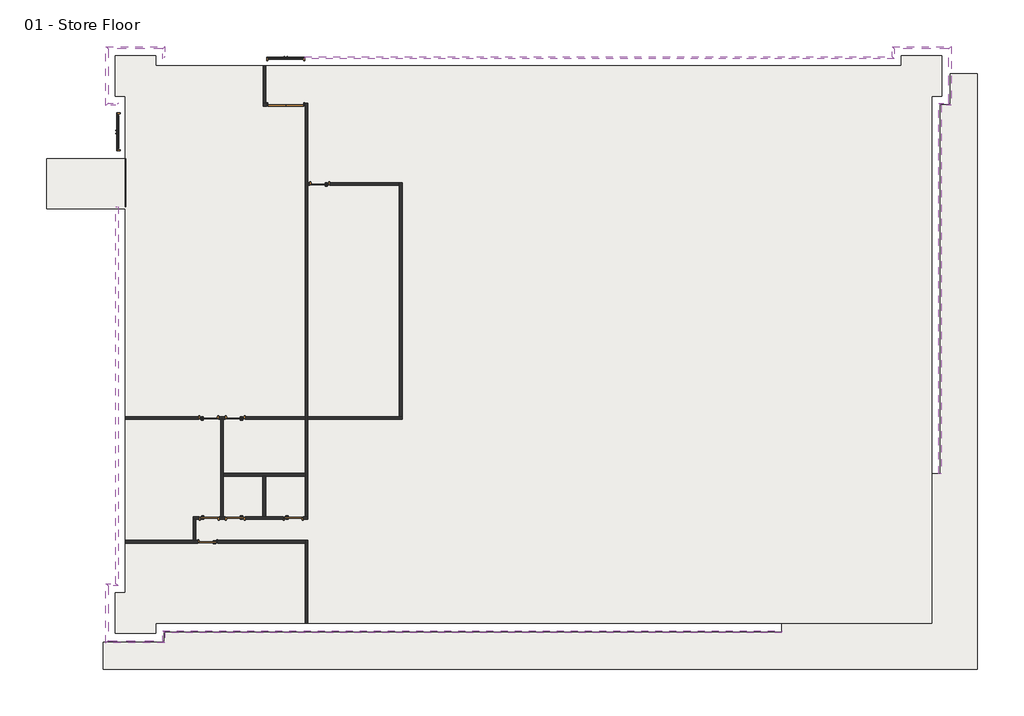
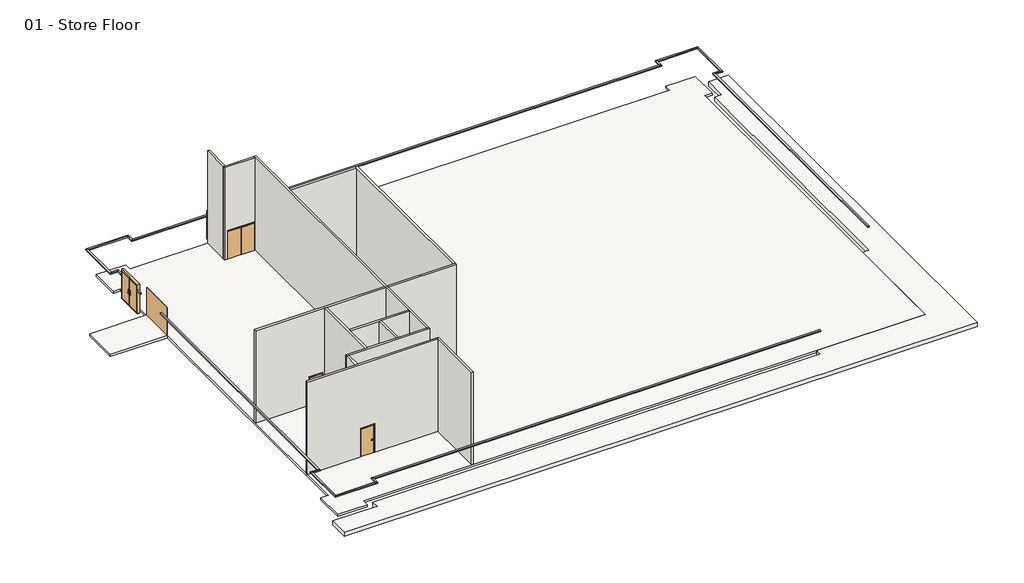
# One storey: 16 proxies, 13 walls, 11 doors, 2 slabs.
"""IFC4 building model written with IfcOpenShell, lengths in millimetres."""

from ifc_helpers import new_model, si_unit, frame, origin, origin_with_axes, place, context, project, spatial, polyline, outline, extrude, faceted_brep, transform, mapped, element, save
from components import m_door_exterior_double_1800_x_2000mm_23919ed1, m_door_exterior_double_1800_x_2000mm_bb9cb4d2, m_door_overhead_sectional_2400_x_2000mm_2e2bb5a0, m_door_passage_double_flush_dbl_acting_1800_x_2000mm_08d7c2af, m_door_passage_single_flush_900_x_2000mm_14e2eb9a, m_door_passage_single_flush_900_x_2000mm_70bd3cdf

model = new_model("IFC4")

# Units and contexts
model_context = context("Model", 3, world=origin())
ifc_project = project(units=[si_unit("LENGTHUNIT", "METRE", prefix="MILLI")], contexts=[model_context])

# Site, building, storey
site = spatial("IfcSite", under=ifc_project)
building = spatial("IfcBuilding", under=site)
storey = spatial("IfcBuildingStorey", under=building, Name="01 - Store Floor", Elevation=0.0)

# Proxies
placement = place(None, origin())
element("IfcBuildingElementProxy", 1, Name="Reveals", at=placement, inside=storey, context=model_context, shape_type="SweptSolid", body=[
    extrude(outline(polyline([(10855.5272279, -14331.9313057), (10855.5272279, -14434.4313057), (-20003.9727721, -14434.4313057), (-20106.4727721, -14331.9313057), (10855.5272279, -14331.9313057)])), frame((0.0, 0.0, 1675.0), z_axis=(0.0, 0.0, 1.0), x_axis=(1.0, 0.0, 0.0)), (0.0, 0.0, 1.0), 75.0),
])
element("IfcBuildingElementProxy", 2, Name="Reveals", at=placement, inside=storey, context=model_context, shape_type="SweptSolid", body=[
    extrude(outline(polyline([(-20106.4727721, -14331.9313057), (-20003.9727721, -14434.4313057), (-20003.9727721, -14934.2313057), (-20106.4727721, -14831.7313057), (-20106.4727721, -14331.9313057)])), frame((0.0, 0.0, 1675.0), z_axis=(0.0, 0.0, 1.0), x_axis=(1.0, 0.0, 0.0)), (0.0, 0.0, 1.0), 75.0),
])
element("IfcBuildingElementProxy", 3, Name="Reveals", at=placement, inside=storey, context=model_context, shape_type="SweptSolid", body=[
    extrude(outline(polyline([(-20106.4727721, -14831.7313057), (-20003.9727721, -14934.2313057), (-22946.9727721, -14934.2313057), (-22844.4727721, -14831.7313057), (-20106.4727721, -14831.7313057)])), frame((0.0, 0.0, 1675.0), z_axis=(0.0, 0.0, 1.0), x_axis=(1.0, 0.0, 0.0)), (0.0, 0.0, 1.0), 75.0),
])
element("IfcBuildingElementProxy", 4, Name="Reveals", at=placement, inside=storey, context=model_context, shape_type="SweptSolid", body=[
    extrude(outline(polyline([(-22844.4727721, -14831.7313057), (-22946.9727721, -14934.2313057), (-22946.9727721, -11991.2313057), (-22844.4727721, -12093.7313057), (-22844.4727721, -14831.7313057)])), frame((0.0, 0.0, 1675.0), z_axis=(0.0, 0.0, 1.0), x_axis=(1.0, 0.0, 0.0)), (0.0, 0.0, 1.0), 75.0),
])
element("IfcBuildingElementProxy", 5, Name="Reveals", at=placement, inside=storey, context=model_context, shape_type="SweptSolid", body=[
    extrude(outline(polyline([(-22844.4727721, -12093.7313057), (-22946.9727721, -11991.2313057), (-22446.9727721, -11991.2313057), (-22344.4727721, -12093.7313057), (-22844.4727721, -12093.7313057)])), frame((0.0, 0.0, 1675.0), z_axis=(0.0, 0.0, 1.0), x_axis=(1.0, 0.0, 0.0)), (0.0, 0.0, 1.0), 75.0),
])
element("IfcBuildingElementProxy", 6, Name="Reveals", at=placement, inside=storey, context=model_context, shape_type="SweptSolid", body=[
    extrude(outline(polyline([(-22344.4727721, 11555.0686943), (-22446.9727721, 11555.0686943), (-22446.9727721, 11927.5686943), (-22344.4727721, 12030.0686943), (-22344.4727721, 11555.0686943)])), frame((0.0, 0.0, 1675.0), z_axis=(0.0, 0.0, 1.0), x_axis=(1.0, 0.0, 0.0)), (0.0, 0.0, 1.0), 75.0),
    extrude(outline(polyline([(-22344.4727721, 9255.0686943), (-22446.9727721, 9255.0686943), (-22446.9727721, 9655.0686943), (-22344.4727721, 9655.0686943), (-22344.4727721, 9255.0686943)])), frame((0.0, 0.0, 1675.0), z_axis=(0.0, 0.0, 1.0), x_axis=(1.0, 0.0, 0.0)), (0.0, 0.0, 1.0), 75.0),
    extrude(outline(polyline([(-22344.4727721, -12093.7313057), (-22446.9727721, -11991.2313057), (-22446.9727721, 6855.0686943), (-22344.4727721, 6855.0686943), (-22344.4727721, -12093.7313057)])), frame((0.0, 0.0, 1675.0), z_axis=(0.0, 0.0, 1.0), x_axis=(1.0, 0.0, 0.0)), (0.0, 0.0, 1.0), 75.0),
])
element("IfcBuildingElementProxy", 7, Name="Reveals", at=placement, inside=storey, context=model_context, shape_type="SweptSolid", body=[
    extrude(outline(polyline([(-22344.4727721, 12030.0686943), (-22446.9727721, 11927.5686943), (-22946.9727721, 11927.5686943), (-22844.4727721, 12030.0686943), (-22344.4727721, 12030.0686943)])), frame((0.0, 0.0, 1675.0), z_axis=(0.0, 0.0, 1.0), x_axis=(1.0, 0.0, 0.0)), (0.0, 0.0, 1.0), 75.0),
])
element("IfcBuildingElementProxy", 8, Name="Reveals", at=placement, inside=storey, context=model_context, shape_type="SweptSolid", body=[
    extrude(outline(polyline([(-22844.4727721, 12030.0686943), (-22946.9727721, 11927.5686943), (-22946.9727721, 14870.5686943), (-22844.4727721, 14768.0686943), (-22844.4727721, 12030.0686943)])), frame((0.0, 0.0, 1675.0), z_axis=(0.0, 0.0, 1.0), x_axis=(1.0, 0.0, 0.0)), (0.0, 0.0, 1.0), 75.0),
])
element("IfcBuildingElementProxy", 9, Name="Reveals", at=placement, inside=storey, context=model_context, shape_type="SweptSolid", body=[
    extrude(outline(polyline([(-22844.4727721, 14768.0686943), (-22946.9727721, 14870.5686943), (-20003.9727721, 14870.5686943), (-20106.4727721, 14768.0686943), (-22844.4727721, 14768.0686943)])), frame((0.0, 0.0, 1675.0), z_axis=(0.0, 0.0, 1.0), x_axis=(1.0, 0.0, 0.0)), (0.0, 0.0, 1.0), 75.0),
])
element("IfcBuildingElementProxy", 10, Name="Reveals", at=placement, inside=storey, context=model_context, shape_type="SweptSolid", body=[
    extrude(outline(polyline([(-20106.4727721, 14768.0686943), (-20003.9727721, 14870.5686943), (-20003.9727721, 14370.5686943), (-20106.4727721, 14268.0686943), (-20106.4727721, 14768.0686943)])), frame((0.0, 0.0, 1675.0), z_axis=(0.0, 0.0, 1.0), x_axis=(1.0, 0.0, 0.0)), (0.0, 0.0, 1.0), 75.0),
])
element("IfcBuildingElementProxy", 11, Name="Reveals", at=placement, inside=storey, context=model_context, shape_type="SweptSolid", body=[
    extrude(outline(polyline([(-13012.4227721, 14268.0686943), (-13012.4227721, 14370.5686943), (16365.0272279, 14370.5686943), (16467.5272279, 14268.0686943), (-13012.4227721, 14268.0686943)])), frame((0.0, 0.0, 1675.0), z_axis=(0.0, 0.0, 1.0), x_axis=(1.0, 0.0, 0.0)), (0.0, 0.0, 1.0), 75.0),
    extrude(outline(polyline([(-20106.4727721, 14268.0686943), (-20003.9727721, 14370.5686943), (-14912.4227721, 14370.5686943), (-14912.4227721, 14268.0686943), (-20106.4727721, 14268.0686943)])), frame((0.0, 0.0, 1675.0), z_axis=(0.0, 0.0, 1.0), x_axis=(1.0, 0.0, 0.0)), (0.0, 0.0, 1.0), 75.0),
])
element("IfcBuildingElementProxy", 12, Name="Reveals", at=placement, inside=storey, context=model_context, shape_type="SweptSolid", body=[
    extrude(outline(polyline([(16467.5272279, 14268.0686943), (16365.0272279, 14370.5686943), (16365.0272279, 14870.5686943), (16467.5272279, 14768.0686943), (16467.5272279, 14268.0686943)])), frame((0.0, 0.0, 1675.0), z_axis=(0.0, 0.0, 1.0), x_axis=(1.0, 0.0, 0.0)), (0.0, 0.0, 1.0), 75.0),
])
element("IfcBuildingElementProxy", 13, Name="Reveals", at=placement, inside=storey, context=model_context, shape_type="SweptSolid", body=[
    extrude(outline(polyline([(16467.5272279, 14768.0686943), (16365.0272279, 14870.5686943), (19308.0272279, 14870.5686943), (19205.5272279, 14768.0686943), (16467.5272279, 14768.0686943)])), frame((0.0, 0.0, 1675.0), z_axis=(0.0, 0.0, 1.0), x_axis=(1.0, 0.0, 0.0)), (0.0, 0.0, 1.0), 75.0),
])
element("IfcBuildingElementProxy", 14, Name="Reveals", at=placement, inside=storey, context=model_context, shape_type="SweptSolid", body=[
    extrude(outline(polyline([(19205.5272279, 14768.0686943), (19308.0272279, 14870.5686943), (19308.0272279, 11927.5686943), (19205.5272279, 12030.0686943), (19205.5272279, 14768.0686943)])), frame((0.0, 0.0, 1675.0), z_axis=(0.0, 0.0, 1.0), x_axis=(1.0, 0.0, 0.0)), (0.0, 0.0, 1.0), 75.0),
])
element("IfcBuildingElementProxy", 15, Name="Reveals", at=placement, inside=storey, context=model_context, shape_type="SweptSolid", body=[
    extrude(outline(polyline([(19205.5272279, 12030.0686943), (19308.0272279, 11927.5686943), (18808.0272279, 11927.5686943), (18705.5272279, 12030.0686943), (19205.5272279, 12030.0686943)])), frame((0.0, 0.0, 1675.0), z_axis=(0.0, 0.0, 1.0), x_axis=(1.0, 0.0, 0.0)), (0.0, 0.0, 1.0), 75.0),
])
element("IfcBuildingElementProxy", 16, Name="Reveals", at=placement, inside=storey, context=model_context, shape_type="SweptSolid", body=[
    extrude(outline(polyline([(18705.5272279, 12030.0686943), (18808.0272279, 11927.5686943), (18808.0272279, -6481.9313057), (18705.5272279, -6481.9313057), (18705.5272279, 12030.0686943)])), frame((0.0, 0.0, 1675.0), z_axis=(0.0, 0.0, 1.0), x_axis=(1.0, 0.0, 0.0)), (0.0, 0.0, 1.0), 75.0),
])

# Doors
m_door_exterior_double_1800_x_2000mm_shape = m_door_exterior_double_1800_x_2000mm_23919ed1(model_context)
element("IfcDoor", 17, ObjectType="M_Door-Exterior-Double : 1800 x 2000mm", at=placement, inside=storey, context=model_context, shape_type="MappedRepresentation", body=[
    mapped(m_door_exterior_double_1800_x_2000mm_shape, transform((-13962.4227721, 14122.2186943, 0.0), x_axis=(-1.0, 0.0, 0.0), y_axis=(0.0, -1.0, 0.0), z_axis=(0.0, 0.0, 1.0))),
])
m_door_exterior_double_1800_x_2000mm_2_shape = m_door_exterior_double_1800_x_2000mm_bb9cb4d2(model_context)
element("IfcDoor", 18, ObjectType="M_Door-Exterior-Double : 1800 x 2000mm", at=placement, inside=storey, context=model_context, shape_type="MappedRepresentation", body=[
    mapped(m_door_exterior_double_1800_x_2000mm_2_shape, transform((-22198.6227721, 10605.0686943, 0.0), x_axis=(0.0, 1.0, 0.0), y_axis=(-1.0, 0.0, 0.0), z_axis=(0.0, 0.0, 1.0))),
])
m_door_overhead_sectional_2400_x_2000mm_shape = m_door_overhead_sectional_2400_x_2000mm_2e2bb5a0(model_context)
element("IfcDoor", 19, ObjectType="M_Door-Overhead-Sectional : 2400 x 2000mm", at=placement, inside=storey, context=model_context, shape_type="MappedRepresentation", body=[
    mapped(m_door_overhead_sectional_2400_x_2000mm_shape, transform((-22204.9727721, 8055.0686943, 0.0), x_axis=(0.0, 1.0, 0.0), y_axis=(-1.0, 0.0, 0.0), z_axis=(0.0, 0.0, 1.0))),
])
m_door_passage_double_flush_dbl_acting_1800_x_2000mm_shape = m_door_passage_double_flush_dbl_acting_1800_x_2000mm_08d7c2af(model_context)
element("IfcDoor", 20, ObjectType="M_Door-Passage-Double-Flush-Dbl_Acting : 1800 x 2000mm", at=placement, inside=storey, context=model_context, shape_type="MappedRepresentation", body=[
    mapped(m_door_passage_double_flush_dbl_acting_1800_x_2000mm_shape, transform((-13959.9477721, 11961.4186943, 0.0), x_axis=(-1.0, 0.0, 0.0), y_axis=(0.0, -1.0, 0.0), z_axis=(0.0, 0.0, 1.0))),
])
m_door_passage_single_flush_900_x_2000mm_shape = m_door_passage_single_flush_900_x_2000mm_14e2eb9a(model_context)
element("IfcDoor", 21, ObjectType="M_Door-Passage-Single-Flush : 900 x 2000mm", at=placement, inside=storey, context=model_context, shape_type="MappedRepresentation", body=[
    mapped(m_door_passage_single_flush_900_x_2000mm_shape, transform((-17819.4727721, -3700.5813057, 0.0), x_axis=(1.0, 0.0, 0.0), y_axis=(0.0, 1.0, 0.0), z_axis=(0.0, 0.0, 1.0))),
])
element("IfcDoor", 22, ObjectType="M_Door-Passage-Single-Flush : 900 x 2000mm", at=placement, inside=storey, context=model_context, shape_type="MappedRepresentation", body=[
    mapped(m_door_passage_single_flush_900_x_2000mm_shape, transform((-16480.9727721, -8713.2813057, 0.0), x_axis=(-1.0, 0.0, 0.0), y_axis=(0.0, -1.0, 0.0), z_axis=(0.0, 0.0, 1.0))),
])
m_door_passage_single_flush_900_x_2000mm_2_shape = m_door_passage_single_flush_900_x_2000mm_70bd3cdf(model_context)
element("IfcDoor", 23, ObjectType="M_Door-Passage-Single-Flush : 900 x 2000mm", at=placement, inside=storey, context=model_context, shape_type="MappedRepresentation", body=[
    mapped(m_door_passage_single_flush_900_x_2000mm_2_shape, transform((-16480.9727721, -3700.5813057, 0.0), x_axis=(-1.0, 0.0, 0.0), y_axis=(0.0, -1.0, 0.0), z_axis=(0.0, 0.0, 1.0))),
])
element("IfcDoor", 24, ObjectType="M_Door-Passage-Single-Flush : 900 x 2000mm", at=placement, inside=storey, context=model_context, shape_type="MappedRepresentation", body=[
    mapped(m_door_passage_single_flush_900_x_2000mm_2_shape, transform((-13588.7227721, -8713.2813057, 0.0), x_axis=(1.0, 0.0, 0.0), y_axis=(0.0, 1.0, 0.0), z_axis=(0.0, 0.0, 1.0))),
])
element("IfcDoor", 25, ObjectType="M_Door-Passage-Single-Flush : 900 x 2000mm", at=placement, inside=storey, context=model_context, shape_type="MappedRepresentation", body=[
    mapped(m_door_passage_single_flush_900_x_2000mm_2_shape, transform((-17795.5977721, -8713.2813057, 0.0), x_axis=(1.0, 0.0, 0.0), y_axis=(0.0, 1.0, 0.0), z_axis=(0.0, 0.0, 1.0))),
])
element("IfcDoor", 26, ObjectType="M_Door-Passage-Single-Flush : 900 x 2000mm", at=placement, inside=storey, context=model_context, shape_type="MappedRepresentation", body=[
    mapped(m_door_passage_single_flush_900_x_2000mm_2_shape, transform((-17850.2227721, -9889.0813057, 0.0), x_axis=(-1.0, 0.0, 0.0), y_axis=(0.0, -1.0, 0.0), z_axis=(0.0, 0.0, 1.0))),
])
element("IfcDoor", 27, ObjectType="M_Door-Passage-Single-Flush : 900 x 2000mm", at=placement, inside=storey, context=model_context, shape_type="MappedRepresentation", body=[
    mapped(m_door_passage_single_flush_900_x_2000mm_2_shape, transform((-12250.2227721, 7999.4186943, 0.0), x_axis=(-1.0, 0.0, 0.0), y_axis=(0.0, -1.0, 0.0), z_axis=(0.0, 0.0, 1.0))),
])

# Slabs
element("IfcSlab", 28, ObjectType="Generic 150mm", at=placement, inside=storey, context=model_context, shape_type="SweptSolid", body=[
    extrude(outline(polyline([(16821.5272279, 13914.0686943), (16821.5272279, 14414.0686943), (18851.5272279, 14414.0686943), (18851.5272279, 12384.0686943), (18351.5272279, 12384.0686943), (18351.5272279, -6481.9313057), (18351.5272279, -13977.9313057), (10855.5272279, -13977.9313057), (-20460.4727721, -13977.9313057), (-20460.4727721, -14477.7313057), (-22490.4727721, -14477.7313057), (-22490.4727721, -12447.7313057), (-21990.4727721, -12447.7313057), (-21990.4727721, 6772.0686943), (-25919.4727721, 6772.0686943), (-25919.4727721, 9272.0686943), (-21990.4727721, 9272.0686943), (-21990.4727721, 12384.0686943), (-22490.4727721, 12384.0686943), (-22490.4727721, 14414.0686943), (-20460.4727721, 14414.0686943), (-20460.4727721, 13914.0686943), (16821.5272279, 13914.0686943)])), frame((0.0, 0.0, -150.0), z_axis=(0.0, 0.0, 1.0), x_axis=(1.0, 0.0, 0.0)), (0.0, 0.0, 1.0), 150.0),
])
element("IfcSlab", 29, ObjectType="Generic 300mm", at=placement, inside=storey, context=model_context, shape_type="SweptSolid", body=[
    extrude(outline(polyline([(20630.5272279, -16256.9313057), (-23090.4727721, -16256.9313057), (-23090.4727721, -14906.7313057), (-20031.4727721, -14906.7313057), (-20031.4727721, -14406.9313057), (10855.5272279, -14406.9313057), (10855.5272279, -13977.9313057), (18351.5272279, -13977.9313057), (18351.5272279, -6481.9313057), (18780.5272279, -6481.9313057), (18780.5272279, 11955.0686943), (19280.5272279, 11955.0686943), (19280.5272279, 13514.0686943), (20630.5272279, 13514.0686943), (20630.5272279, -16256.9313057)])), frame((0.0, 0.0, -300.0), z_axis=(0.0, 0.0, 1.0), x_axis=(1.0, 0.0, 0.0)), (0.0, 0.0, 1.0), 300.0),
])

# Walls
element("IfcWall", 30, ObjectType="Interior - 138mm Partition (1-hr)", at=placement, inside=storey, context=model_context, shape_type="Brep", body=[
    faceted_brep([(-12850.2227721, -13977.9313057, 0.0), (-12850.2227721, -9826.1813057, 0.0), (-12850.2227721, -9826.1813057, 6750.0), (-12850.2227721, -13977.9313057, 6750.0), (-12988.7227721, -13977.9313057, 0.0), (-12988.7227721, -13977.9313057, 6750.0), (-12988.7227721, -9964.6813057, 6750.0), (-12988.7227721, -9826.1813057, 6750.0), (-12988.7227721, -9826.1813057, 0.0), (-12988.7227721, -9964.6813057, 0.0)], [[[0, 1, 2, 3]], [[4, 5, 6, 7, 8, 9]], [[1, 0, 4, 9, 8]], [[0, 3, 5, 4]], [[2, 1, 8, 7]], [[3, 2, 7, 6, 5]]]),
])
element("IfcWall", 31, ObjectType="Interior - 138mm Partition (1-hr)", at=placement, inside=storey, context=model_context, shape_type="Brep", body=[
    faceted_brep([(-12988.7227721, 12024.3186943, 6750.0), (-12988.7227721, 12024.3186943, 0.0), (-13009.9477721, 12024.3186943, 0.0), (-13009.9477721, 12024.3186943, 2100.0), (-14909.9477721, 12024.3186943, 2100.0), (-14909.9477721, 12024.3186943, 0.0), (-14950.2227721, 12024.3186943, 0.0), (-15088.7227721, 12024.3186943, 0.0), (-15088.7227721, 12024.3186943, 6750.0), (-14950.2227721, 12024.3186943, 6750.0), (-12988.7227721, 11885.8186943, 0.0), (-12988.7227721, 11885.8186943, 6750.0), (-15088.7227721, 11885.8186943, 6750.0), (-15088.7227721, 11885.8186943, 0.0), (-14909.9477721, 11885.8186943, 0.0), (-14909.9477721, 11885.8186943, 2100.0), (-13009.9477721, 11885.8186943, 2100.0), (-13009.9477721, 11885.8186943, 0.0)], [[[0, 1, 2, 3, 4, 5, 6, 7, 8, 9]], [[10, 11, 12, 13, 14, 15, 16, 17]], [[1, 10, 17, 2]], [[13, 7, 6, 5, 14]], [[1, 0, 11, 10]], [[8, 7, 13, 12]], [[0, 9, 8, 12, 11]], [[4, 15, 14, 5]], [[15, 4, 3, 16]], [[16, 3, 2, 17]]]),
])
element("IfcWall", 32, ObjectType="Interior - 138mm Partition (1-hr)", at=placement, inside=storey, context=model_context, shape_type="SweptSolid", body=[
    extrude(outline(polyline([(-14950.2227721, 13914.0686943), (-14950.2227721, 12024.3186943), (-15088.7227721, 12024.3186943), (-15088.7227721, 13914.0686943), (-14950.2227721, 13914.0686943)])), origin_with_axes(), (0.0, 0.0, 1.0), 6750.0),
])
element("IfcWall", 33, ObjectType="Interior - 138mm Partition (1-hr)", at=placement, inside=storey, context=model_context, shape_type="Brep", body=[
    faceted_brep([(-18588.7227721, -8637.6813057, 0.0), (-18588.7227721, -8637.6813057, 6750.0), (-17219.4727721, -8637.6813057, 6750.0), (-17080.9727721, -8637.6813057, 6750.0), (-15104.0977721, -8637.6813057, 6750.0), (-14965.5977721, -8637.6813057, 6750.0), (-12988.7227721, -8637.6813057, 6750.0), (-12850.2227721, -8637.6813057, 6750.0), (-12850.2227721, -8637.6813057, 0.0), (-12988.7227721, -8637.6813057, 0.0), (-13088.7227721, -8637.6813057, 0.0), (-13088.7227721, -8637.6813057, 2100.0), (-14088.7227721, -8637.6813057, 2100.0), (-14088.7227721, -8637.6813057, 0.0), (-14965.5977721, -8637.6813057, 0.0), (-15104.0977721, -8637.6813057, 0.0), (-15980.9727721, -8637.6813057, 0.0), (-15980.9727721, -8637.6813057, 2100.0), (-16980.9727721, -8637.6813057, 2100.0), (-16980.9727721, -8637.6813057, 0.0), (-17080.9727721, -8637.6813057, 0.0), (-17219.4727721, -8637.6813057, 0.0), (-17295.5977721, -8637.6813057, 0.0), (-17295.5977721, -8637.6813057, 2100.0), (-18295.5977721, -8637.6813057, 2100.0), (-18295.5977721, -8637.6813057, 0.0), (-18588.7227721, -8776.1813057, 6750.0), (-18588.7227721, -8776.1813057, 0.0), (-18450.2227721, -8776.1813057, 0.0), (-18295.5977721, -8776.1813057, 0.0), (-18295.5977721, -8776.1813057, 2100.0), (-17295.5977721, -8776.1813057, 2100.0), (-17295.5977721, -8776.1813057, 0.0), (-16980.9727721, -8776.1813057, 0.0), (-16980.9727721, -8776.1813057, 2100.0), (-15980.9727721, -8776.1813057, 2100.0), (-15980.9727721, -8776.1813057, 0.0), (-14088.7227721, -8776.1813057, 0.0), (-14088.7227721, -8776.1813057, 2100.0), (-13088.7227721, -8776.1813057, 2100.0), (-13088.7227721, -8776.1813057, 0.0), (-12850.2227721, -8776.1813057, 0.0), (-12850.2227721, -8776.1813057, 6750.0), (-18450.2227721, -8776.1813057, 6750.0)], [[[0, 1, 2, 3, 4, 5, 6, 7, 8, 9, 10, 11, 12, 13, 14, 15, 16, 17, 18, 19, 20, 21, 22, 23, 24, 25]], [[26, 27, 28, 29, 30, 31, 32, 33, 34, 35, 36, 37, 38, 39, 40, 41, 42, 43]], [[27, 0, 25, 29, 28]], [[8, 41, 40, 10, 9]], [[19, 33, 32, 22, 21, 20]], [[36, 16, 15, 14, 13, 37]], [[1, 0, 27, 26]], [[8, 7, 42, 41]], [[7, 6, 5, 4, 3, 2, 1, 26, 43, 42]], [[18, 34, 33, 19]], [[34, 18, 17, 35]], [[35, 17, 16, 36]], [[39, 11, 10, 40]], [[11, 39, 38, 12]], [[12, 38, 37, 13]], [[31, 23, 22, 32]], [[23, 31, 30, 24]], [[24, 30, 29, 25]]]),
])
element("IfcWall", 34, ObjectType="Interior - 138mm Partition (1-hr)", at=placement, inside=storey, context=model_context, shape_type="SweptSolid", body=[
    extrude(outline(polyline([(-18588.7227721, -9826.1813057), (-18588.7227721, -8776.1813057), (-18450.2227721, -8776.1813057), (-18450.2227721, -9826.1813057), (-18588.7227721, -9826.1813057)])), origin_with_axes(), (0.0, 0.0, 1.0), 6750.0),
])
element("IfcWall", 35, ObjectType="Interior - 138mm Partition (1-hr)", at=placement, inside=storey, context=model_context, shape_type="Brep", body=[
    faceted_brep([(-21990.4727721, -9964.6813057, 6750.0), (-21990.4727721, -9964.6813057, 0.0), (-18350.2227721, -9964.6813057, 0.0), (-18350.2227721, -9964.6813057, 2100.0), (-17350.2227721, -9964.6813057, 2100.0), (-17350.2227721, -9964.6813057, 0.0), (-12988.7227721, -9964.6813057, 0.0), (-12988.7227721, -9964.6813057, 6750.0), (-21990.4727721, -9826.1813057, 0.0), (-21990.4727721, -9826.1813057, 6750.0), (-18588.7227721, -9826.1813057, 6750.0), (-18450.2227721, -9826.1813057, 6750.0), (-12988.7227721, -9826.1813057, 6750.0), (-12988.7227721, -9826.1813057, 0.0), (-17350.2227721, -9826.1813057, 0.0), (-17350.2227721, -9826.1813057, 2100.0), (-18350.2227721, -9826.1813057, 2100.0), (-18350.2227721, -9826.1813057, 0.0), (-18450.2227721, -9826.1813057, 0.0), (-18588.7227721, -9826.1813057, 0.0)], [[[0, 1, 2, 3, 4, 5, 6, 7]], [[8, 9, 10, 11, 12, 13, 14, 15, 16, 17, 18, 19]], [[1, 8, 19, 18, 17, 2]], [[13, 6, 5, 14]], [[1, 0, 9, 8]], [[7, 6, 13, 12]], [[0, 7, 12, 11, 10, 9]], [[16, 3, 2, 17]], [[3, 16, 15, 4]], [[4, 15, 14, 5]]]),
])
element("IfcWall", 36, ObjectType="Interior - 138mm Partition (1-hr)", at=placement, inside=storey, context=model_context, shape_type="Brep", body=[
    faceted_brep([(-17080.9727721, -8637.6813057, 0.0), (-17080.9727721, -6606.9313057, 0.0), (-17080.9727721, -6468.4313057, 0.0), (-17080.9727721, -3776.1813057, 0.0), (-17080.9727721, -3776.1813057, 6750.0), (-17080.9727721, -6468.4313057, 6750.0), (-17080.9727721, -6606.9313057, 6750.0), (-17080.9727721, -8637.6813057, 6750.0), (-17219.4727721, -8637.6813057, 0.0), (-17219.4727721, -8637.6813057, 6750.0), (-17219.4727721, -3776.1813057, 6750.0), (-17219.4727721, -3776.1813057, 0.0)], [[[0, 1, 2, 3, 4, 5, 6, 7]], [[8, 9, 10, 11]], [[3, 2, 1, 0, 8, 11]], [[0, 7, 9, 8]], [[4, 3, 11, 10]], [[7, 6, 5, 4, 10, 9]]]),
])
element("IfcWall", 37, ObjectType="Interior - 138mm Partition (1-hr)", at=placement, inside=storey, context=model_context, shape_type="Brep", body=[
    faceted_brep([(-21990.4727721, -3637.6813057, 0.0), (-21990.4727721, -3637.6813057, 6750.0), (-12988.7227721, -3637.6813057, 6750.0), (-12988.7227721, -3637.6813057, 0.0), (-15980.9727721, -3637.6813057, 0.0), (-15980.9727721, -3637.6813057, 2100.0), (-16980.9727721, -3637.6813057, 2100.0), (-16980.9727721, -3637.6813057, 0.0), (-17319.4727721, -3637.6813057, 0.0), (-17319.4727721, -3637.6813057, 2100.0), (-18319.4727721, -3637.6813057, 2100.0), (-18319.4727721, -3637.6813057, 0.0), (-21990.4727721, -3776.1813057, 6750.0), (-21990.4727721, -3776.1813057, 0.0), (-18319.4727721, -3776.1813057, 0.0), (-18319.4727721, -3776.1813057, 2100.0), (-17319.4727721, -3776.1813057, 2100.0), (-17319.4727721, -3776.1813057, 0.0), (-17219.4727721, -3776.1813057, 0.0), (-17080.9727721, -3776.1813057, 0.0), (-16980.9727721, -3776.1813057, 0.0), (-16980.9727721, -3776.1813057, 2100.0), (-15980.9727721, -3776.1813057, 2100.0), (-15980.9727721, -3776.1813057, 0.0), (-12988.7227721, -3776.1813057, 0.0), (-12988.7227721, -3776.1813057, 6750.0), (-17080.9727721, -3776.1813057, 6750.0), (-17219.4727721, -3776.1813057, 6750.0)], [[[0, 1, 2, 3, 4, 5, 6, 7, 8, 9, 10, 11]], [[12, 13, 14, 15, 16, 17, 18, 19, 20, 21, 22, 23, 24, 25, 26, 27]], [[13, 0, 11, 14]], [[17, 8, 7, 20, 19, 18]], [[23, 4, 3, 24]], [[1, 0, 13, 12]], [[3, 2, 25, 24]], [[1, 12, 27, 26, 25, 2]], [[16, 9, 8, 17]], [[9, 16, 15, 10]], [[10, 15, 14, 11]], [[6, 21, 20, 7]], [[21, 6, 5, 22]], [[22, 5, 4, 23]]]),
    faceted_brep([(-8135.7227721, -3637.6813057, 6750.0), (-8135.7227721, -3637.6813057, 0.0), (-8274.2227721, -3637.6813057, 0.0), (-12850.2227721, -3637.6813057, 0.0), (-12850.2227721, -3637.6813057, 6750.0), (-8274.2227721, -3637.6813057, 6750.0), (-8135.7227721, -3776.1813057, 0.0), (-8135.7227721, -3776.1813057, 6750.0), (-12850.2227721, -3776.1813057, 6750.0), (-12850.2227721, -3776.1813057, 0.0)], [[[0, 1, 2, 3, 4, 5]], [[6, 7, 8, 9]], [[1, 6, 9, 3, 2]], [[1, 0, 7, 6]], [[4, 3, 9, 8]], [[7, 0, 5, 4, 8]]]),
])
element("IfcWall", 38, ObjectType="Interior - 138mm Partition (1-hr)", at=placement, inside=storey, context=model_context, shape_type="Brep", body=[
    faceted_brep([(-8135.7227721, -3637.6813057, 0.0), (-8135.7227721, 8062.3186943, 0.0), (-8135.7227721, 8062.3186943, 6750.0), (-8135.7227721, -3637.6813057, 6750.0), (-8274.2227721, -3637.6813057, 0.0), (-8274.2227721, -3637.6813057, 6750.0), (-8274.2227721, 7923.8186943, 6750.0), (-8274.2227721, 8062.3186943, 6750.0), (-8274.2227721, 8062.3186943, 0.0), (-8274.2227721, 7923.8186943, 0.0)], [[[0, 1, 2, 3]], [[4, 5, 6, 7, 8, 9]], [[1, 0, 4, 9, 8]], [[0, 3, 5, 4]], [[2, 1, 8, 7]], [[3, 2, 7, 6, 5]]]),
])
element("IfcWall", 39, ObjectType="Interior - 138mm Partition (1-hr)", at=placement, inside=storey, context=model_context, shape_type="SweptSolid", body=[
    extrude(outline(polyline([(0.0, -8274.2227721), (6750.0, -8274.2227721), (6750.0, -12850.2227721), (0.0, -12850.2227721), (0.0, -12750.2227721), (2100.0, -12750.2227721), (2100.0, -11750.2227721), (0.0, -11750.2227721), (0.0, -8274.2227721)])), frame((0.0, 7923.8186943, 0.0), z_axis=(0.0, 1.0, 0.0), x_axis=(0.0, 0.0, 1.0)), (0.0, 0.0, 1.0), 138.5),
])
element("IfcWall", 40, ObjectType="Interior - 138mm Partition (1-hr)", at=placement, inside=storey, context=model_context, shape_type="Brep", body=[
    faceted_brep([(-12988.7227721, -6468.4313057, 0.0), (-17080.9727721, -6468.4313057, 0.0), (-17080.9727721, -6468.4313057, 6750.0), (-12988.7227721, -6468.4313057, 6750.0), (-12988.7227721, -6606.9313057, 0.0), (-12988.7227721, -6606.9313057, 6750.0), (-14965.5977721, -6606.9313057, 6750.0), (-15104.0977721, -6606.9313057, 6750.0), (-17080.9727721, -6606.9313057, 6750.0), (-17080.9727721, -6606.9313057, 0.0), (-15104.0977721, -6606.9313057, 0.0), (-14965.5977721, -6606.9313057, 0.0)], [[[0, 1, 2, 3]], [[4, 5, 6, 7, 8, 9, 10, 11]], [[1, 0, 4, 11, 10, 9]], [[0, 3, 5, 4]], [[2, 1, 9, 8]], [[3, 2, 8, 7, 6, 5]]]),
])
element("IfcWall", 41, ObjectType="Interior - 138mm Partition (1-hr)", at=placement, inside=storey, context=model_context, shape_type="SweptSolid", body=[
    extrude(outline(polyline([(-15104.0977721, -8637.6813057), (-15104.0977721, -6606.9313057), (-14965.5977721, -6606.9313057), (-14965.5977721, -8637.6813057), (-15104.0977721, -8637.6813057)])), origin_with_axes(), (0.0, 0.0, 1.0), 6750.0),
])
element("IfcWall", 42, ObjectType="Interior - 138mm Partition (1-hr)", at=placement, inside=storey, context=model_context, shape_type="Brep", body=[
    faceted_brep([(-12850.2227721, -8637.6813057, 0.0), (-12850.2227721, -3776.1813057, 0.0), (-12850.2227721, -3637.6813057, 0.0), (-12850.2227721, 7923.8186943, 0.0), (-12850.2227721, 8062.3186943, 0.0), (-12850.2227721, 12024.3186943, 0.0), (-12850.2227721, 12024.3186943, 6750.0), (-12850.2227721, 8062.3186943, 6750.0), (-12850.2227721, 7923.8186943, 6750.0), (-12850.2227721, -3637.6813057, 6750.0), (-12850.2227721, -3776.1813057, 6750.0), (-12850.2227721, -8637.6813057, 6750.0), (-12988.7227721, -8637.6813057, 0.0), (-12988.7227721, -8637.6813057, 6750.0), (-12988.7227721, -6606.9313057, 6750.0), (-12988.7227721, -6468.4313057, 6750.0), (-12988.7227721, -3776.1813057, 6750.0), (-12988.7227721, -3637.6813057, 6750.0), (-12988.7227721, 11885.8186943, 6750.0), (-12988.7227721, 12024.3186943, 6750.0), (-12988.7227721, 12024.3186943, 0.0), (-12988.7227721, 11885.8186943, 0.0), (-12988.7227721, -3637.6813057, 0.0), (-12988.7227721, -3776.1813057, 0.0), (-12988.7227721, -6468.4313057, 0.0), (-12988.7227721, -6606.9313057, 0.0)], [[[0, 1, 2, 3, 4, 5, 6, 7, 8, 9, 10, 11]], [[12, 13, 14, 15, 16, 17, 18, 19, 20, 21, 22, 23, 24, 25]], [[5, 4, 3, 2, 1, 0, 12, 25, 24, 23, 22, 21, 20]], [[6, 5, 20, 19]], [[0, 11, 13, 12]], [[11, 10, 9, 8, 7, 6, 19, 18, 17, 16, 15, 14, 13]]]),
])

save(model, "model.ifc")
